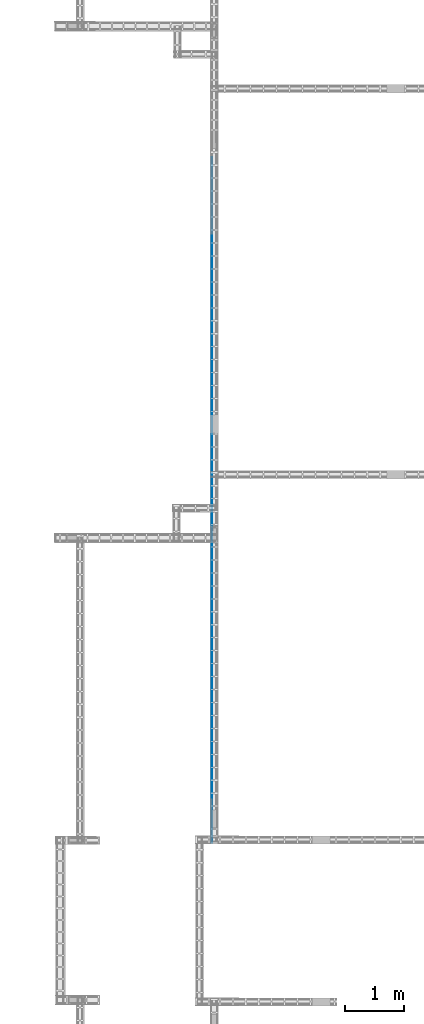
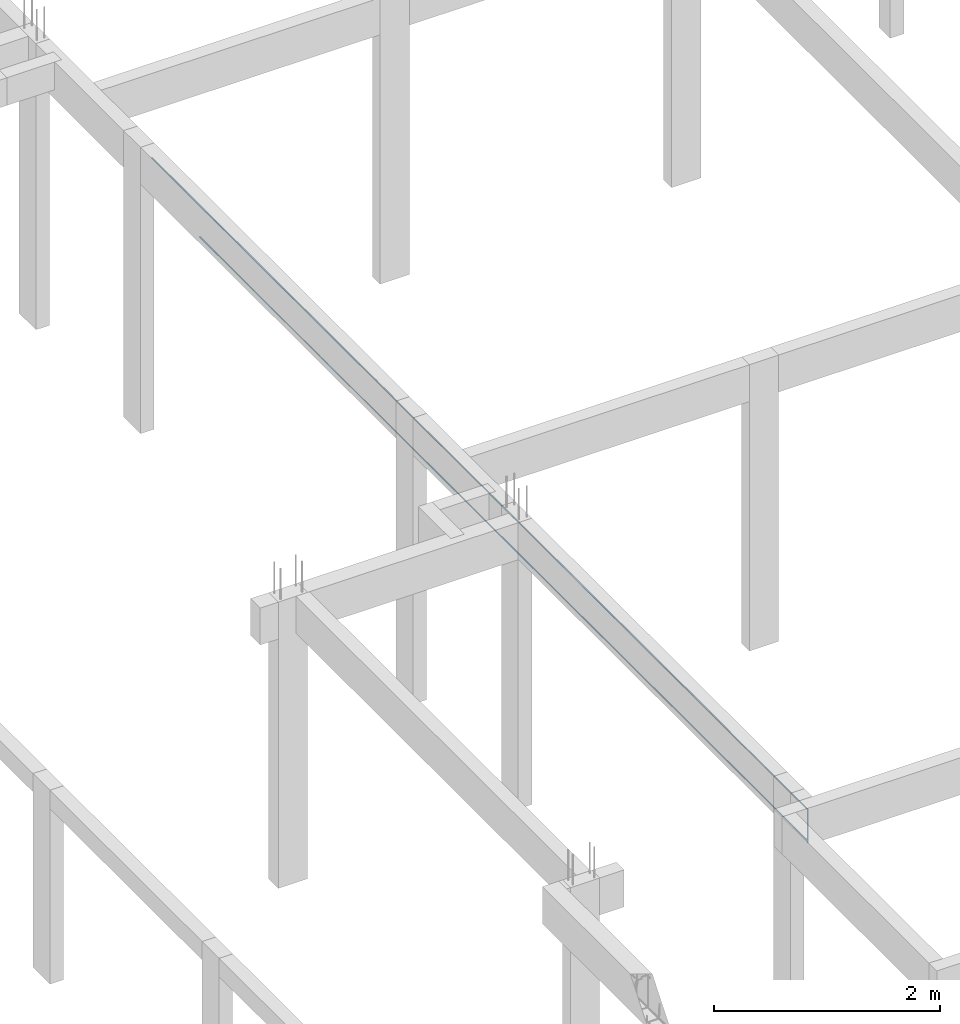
# One storey, part 59 of 236: 2 reinforcing bars.
"""IFC4 building model written with IfcOpenShell, lengths in centimetres."""

from ifc_helpers import new_model, entity, si_unit, derived_unit, frame, origin_with_axes, place, context, project, spatial, element, save


model = new_model("IFC4")

# Units and contexts
model_context = context("Model", 3, precision=1e-05, world=origin_with_axes(), identifier="Body")
ifc_project = project(units=[si_unit("LENGTHUNIT", "METRE", prefix="CENTI"), si_unit("VOLUMEUNIT", "CUBIC_METRE"), si_unit("AREAUNIT", "SQUARE_METRE"), si_unit("POWERUNIT", "WATT"), si_unit("LUMINOUSFLUXUNIT", "LUMEN"), si_unit("ELECTRICCURRENTUNIT", "AMPERE"), si_unit("PRESSUREUNIT", "PASCAL", prefix="KILO"), si_unit("MASSUNIT", "GRAM", prefix="KILO"), si_unit("PLANEANGLEUNIT", "RADIAN"), derived_unit("VOLUMETRICFLOWRATEUNIT", [(si_unit("LENGTHUNIT", "METRE"), 3), (si_unit("TIMEUNIT", "SECOND"), -1)])], contexts=[model_context])

# Site, building, storey
site_placement = place(None, frame((-4000.0, 0.0, 0.0), z_axis=(0.0, 0.0, 1.0), x_axis=(1.0, 0.0, 0.0)))
site = spatial("IfcSite", under=ifc_project, at=site_placement, Name="PADRÃO")
building_placement = place(site_placement, frame((0.0, 0.0, -14.0)))
building = spatial("IfcBuilding", under=site, at=building_placement, Name="CRECHE PRÉ-ESCOLA TIPO 2")
placement_1 = place(building_placement, origin_with_axes())
placement_2 = place(placement_1, frame((0.0, 0.0, 30.0), z_axis=(0.0, 0.0, 1.0), x_axis=(1.0, 0.0, 0.0)))
storey_placement = place(placement_2, frame((0.0, 0.0, 310.0), z_axis=(0.0, 0.0, 1.0), x_axis=(1.0, 0.0, 0.0)))
storey = spatial("IfcBuildingStorey", under=building, at=storey_placement, Name="TERREO", CompositionType="ELEMENT", Elevation=326.0)

# Reinforcing bars
reinforcing_bar_1_placement = place(storey_placement, frame((499.59, 1836.9981248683, -14.8022873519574), z_axis=(0.0, 0.0, 1.0), x_axis=(1.0, 0.0, 0.0)))
element("IfcReinforcingBar", 1, at=reinforcing_bar_1_placement, inside=storey, Name="V270 - Longitudinal inferior", BarLength=0.0, CrossSectionArea=5.0265482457e-05, NominalDiameter=0.8, PredefinedType="MAIN", context=model_context, shape_type="AdvancedSweptSolid", body=[
    entity("IfcSweptDiskSolid", entity("IfcCompositeCurve", [entity("IfcCompositeCurveSegment", "CONTINUOUS", True, entity("IfcPolyline", [entity("IfcCartesianPoint", [0.0, -539.098124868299, 0.0]), entity("IfcCartesianPoint", [0.0, -539.098124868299, -22.2977126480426])])), entity("IfcCompositeCurveSegment", "CONTINUOUS", True, entity("IfcPolyline", [entity("IfcCartesianPoint", [0.0, -539.098124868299, -22.2977126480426]), entity("IfcCartesianPoint", [0.0, 539.5018751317, -22.2977126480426])]))], False), 0.4),
])
reinforcing_bar_2_placement = place(storey_placement, frame((499.69, 1879.49765608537, -2.49531217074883), z_axis=(0.0, 0.0, 1.0), x_axis=(1.0, 0.0, 0.0)))
element("IfcReinforcingBar", 2, at=reinforcing_bar_2_placement, inside=storey, Name="V270 - Longitudinal superior", BarLength=0.0, CrossSectionArea=7.853981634e-05, NominalDiameter=1.0, PredefinedType="MAIN", context=model_context, shape_type="AdvancedSweptSolid", body=[
    entity("IfcSweptDiskSolid", entity("IfcCompositeCurve", [entity("IfcCompositeCurveSegment", "CONTINUOUS", True, entity("IfcPolyline", [entity("IfcCartesianPoint", [0.0, -581.497656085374, -36.5046878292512]), entity("IfcCartesianPoint", [0.0, -581.497656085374, -0.504687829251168])])), entity("IfcCompositeCurveSegment", "CONTINUOUS", True, entity("IfcPolyline", [entity("IfcCartesianPoint", [0.0, -581.497656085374, -0.504687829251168]), entity("IfcCartesianPoint", [0.0, 582.002343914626, -0.504687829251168])]))], False), 0.5),
])

save(model, "model.ifc")
